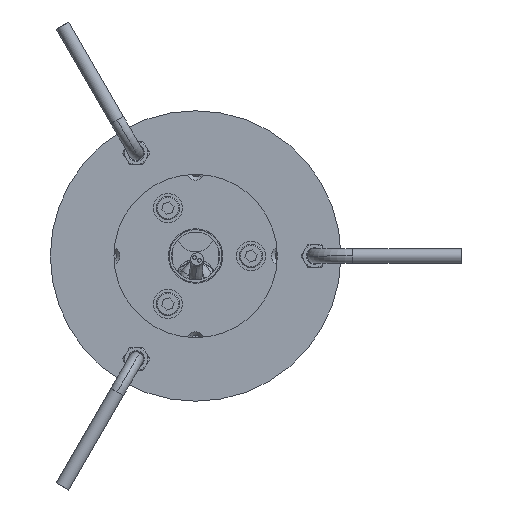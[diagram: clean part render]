
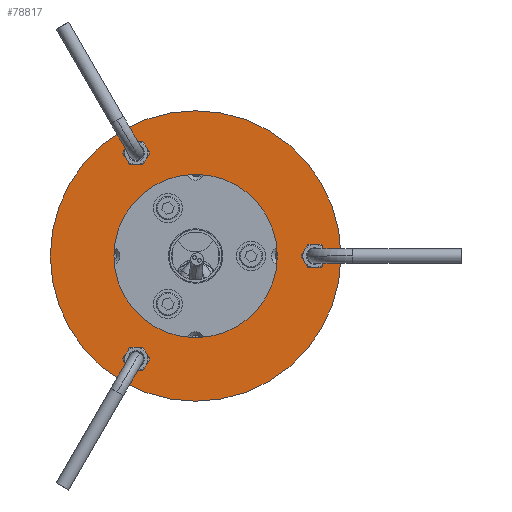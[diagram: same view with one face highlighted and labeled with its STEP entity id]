
A CAD part, front view. The second image highlights one B-rep face of the part: STEP entity #78817.
In plain terms, the highlighted planar face has unit normal (0, -1, 0) as drawn and (0, 0, 1) by its records, which use the part's own axes.
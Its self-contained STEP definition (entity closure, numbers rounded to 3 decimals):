
#78588=CARTESIAN_POINT('',(0.,0.,1.5));
#78589=DIRECTION('',(0.,0.,-1.));
#78590=DIRECTION('',(-1.,0.,0.));
#78591=AXIS2_PLACEMENT_3D('',#78588,#78589,#78590);
#78593=CARTESIAN_POINT('',(0.,0.,1.5));
#78594=DIRECTION('',(0.,0.,-1.));
#78595=DIRECTION('',(1.,0.,0.));
#78596=AXIS2_PLACEMENT_3D('',#78593,#78594,#78595);
#78598=CARTESIAN_POINT('',(0.,0.,1.5));
#78599=DIRECTION('',(0.,0.,1.));
#78600=DIRECTION('',(-1.,0.,0.));
#78601=AXIS2_PLACEMENT_3D('',#78598,#78599,#78600);
#78603=CARTESIAN_POINT('',(0.,0.,1.5));
#78604=DIRECTION('',(0.,0.,1.));
#78605=DIRECTION('',(1.,0.,0.));
#78606=AXIS2_PLACEMENT_3D('',#78603,#78604,#78605);
#78608=CARTESIAN_POINT('',(0.,-65.5,1.5));
#78609=DIRECTION('',(0.,0.,1.));
#78610=DIRECTION('',(-1.,0.,0.));
#78611=AXIS2_PLACEMENT_3D('',#78608,#78609,#78610);
#78613=CARTESIAN_POINT('',(0.,-65.5,1.5));
#78614=DIRECTION('',(0.,0.,1.));
#78615=DIRECTION('',(1.,0.,0.));
#78616=AXIS2_PLACEMENT_3D('',#78613,#78614,#78615);
#78618=CARTESIAN_POINT('',(-56.725,32.75,1.5));
#78619=DIRECTION('',(0.,0.,1.));
#78620=DIRECTION('',(-1.,0.,0.));
#78621=AXIS2_PLACEMENT_3D('',#78618,#78619,#78620);
#78623=CARTESIAN_POINT('',(-56.725,32.75,1.5));
#78624=DIRECTION('',(0.,0.,1.));
#78625=DIRECTION('',(1.,0.,0.));
#78626=AXIS2_PLACEMENT_3D('',#78623,#78624,#78625);
#78628=CARTESIAN_POINT('',(56.725,32.75,1.5));
#78629=DIRECTION('',(0.,0.,1.));
#78630=DIRECTION('',(-1.,0.,0.));
#78631=AXIS2_PLACEMENT_3D('',#78628,#78629,#78630);
#78633=CARTESIAN_POINT('',(56.725,32.75,1.5));
#78634=DIRECTION('',(0.,0.,1.));
#78635=DIRECTION('',(1.,0.,0.));
#78636=AXIS2_PLACEMENT_3D('',#78633,#78634,#78635);
#78670=CARTESIAN_POINT('',(-52.225,32.75,1.5));
#78671=VERTEX_POINT('',#78670);
#78672=CARTESIAN_POINT('',(-61.225,32.75,1.5));
#78673=VERTEX_POINT('',#78672);
#78690=CARTESIAN_POINT('',(80.,0.,1.5));
#78691=VERTEX_POINT('',#78690);
#78692=CARTESIAN_POINT('',(-80.,0.,1.5));
#78693=VERTEX_POINT('',#78692);
#78694=CARTESIAN_POINT('',(-45.,0.,1.5));
#78695=CARTESIAN_POINT('',(45.,0.,1.5));
#78696=VERTEX_POINT('',#78694);
#78697=VERTEX_POINT('',#78695);
#78698=CARTESIAN_POINT('',(-4.5,-65.5,1.5));
#78699=CARTESIAN_POINT('',(4.5,-65.5,1.5));
#78700=VERTEX_POINT('',#78698);
#78701=VERTEX_POINT('',#78699);
#78702=CARTESIAN_POINT('',(52.225,32.75,1.5));
#78703=CARTESIAN_POINT('',(61.225,32.75,1.5));
#78704=VERTEX_POINT('',#78702);
#78705=VERTEX_POINT('',#78703);
#78785=CARTESIAN_POINT('',(0.,0.,1.5));
#78786=DIRECTION('',(0.,0.,1.));
#78787=DIRECTION('',(1.,0.,0.));
#78788=AXIS2_PLACEMENT_3D('',#78785,#78786,#78787);
#78789=PLANE('',#78788);
#78790=ORIENTED_EDGE('',*,*,#78765,.T.);
#78791=ORIENTED_EDGE('',*,*,#78778,.T.);
#78792=EDGE_LOOP('',(#78790,#78791));
#78793=FACE_OUTER_BOUND('',#78792,.F.);
#78795=ORIENTED_EDGE('',*,*,#78794,.T.);
#78797=ORIENTED_EDGE('',*,*,#78796,.T.);
#78798=EDGE_LOOP('',(#78795,#78797));
#78799=FACE_BOUND('',#78798,.F.);
#78801=ORIENTED_EDGE('',*,*,#78800,.T.);
#78803=ORIENTED_EDGE('',*,*,#78802,.T.);
#78804=EDGE_LOOP('',(#78801,#78803));
#78805=FACE_BOUND('',#78804,.F.);
#78806=ORIENTED_EDGE('',*,*,#78715,.T.);
#78808=ORIENTED_EDGE('',*,*,#78807,.T.);
#78809=EDGE_LOOP('',(#78806,#78808));
#78810=FACE_BOUND('',#78809,.F.);
#78812=ORIENTED_EDGE('',*,*,#78811,.T.);
#78814=ORIENTED_EDGE('',*,*,#78813,.T.);
#78815=EDGE_LOOP('',(#78812,#78814));
#78816=FACE_BOUND('',#78815,.F.);
#78817=ADVANCED_FACE('',(#78793,#78799,#78805,#78810,#78816),#78789,.T.);
#78592=CIRCLE('',#78591,80.);
#78597=CIRCLE('',#78596,80.);
#78602=CIRCLE('',#78601,45.);
#78607=CIRCLE('',#78606,45.);
#78612=CIRCLE('',#78611,4.5);
#78617=CIRCLE('',#78616,4.5);
#78622=CIRCLE('',#78621,4.5);
#78627=CIRCLE('',#78626,4.5);
#78632=CIRCLE('',#78631,4.5);
#78637=CIRCLE('',#78636,4.5);
#78715=EDGE_CURVE('',#78673,#78671,#78622,.T.);
#78765=EDGE_CURVE('',#78693,#78691,#78592,.T.);
#78778=EDGE_CURVE('',#78691,#78693,#78597,.T.);
#78794=EDGE_CURVE('',#78696,#78697,#78602,.T.);
#78796=EDGE_CURVE('',#78697,#78696,#78607,.T.);
#78800=EDGE_CURVE('',#78700,#78701,#78612,.T.);
#78802=EDGE_CURVE('',#78701,#78700,#78617,.T.);
#78807=EDGE_CURVE('',#78671,#78673,#78627,.T.);
#78811=EDGE_CURVE('',#78704,#78705,#78632,.T.);
#78813=EDGE_CURVE('',#78705,#78704,#78637,.T.);
